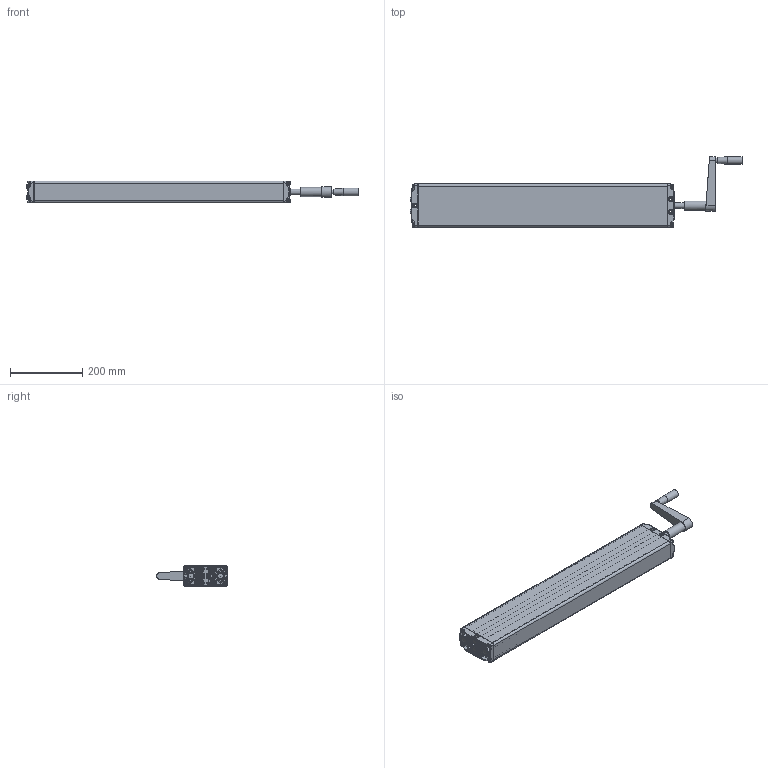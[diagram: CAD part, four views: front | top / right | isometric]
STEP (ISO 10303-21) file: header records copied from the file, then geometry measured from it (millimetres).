
FILE_DESCRIPTION(/* description */ ('Unknown'),/* implementation_level */ '2;1');
FILE_NAME(/* name */ '312.20025 Pumpe PB 3850 W mit Handkurbel',/* time_stamp */ '2016-10-21T13:46:26+02:00',/* author */ ('Unknown'),/* organization */ ('Unknown'),/* preprocessor_version */ 'ST-DEVELOPER v16.7',/* originating_system */ 'DEX',/* authorisation */ $);
FILE_SCHEMA (('AUTOMOTIVE_DESIGN {1 0 10303 214 3 1 1}'));
Products named in the file (22): 102.20025; 115.00035; 125.00045; 115.00008; 142.00021; 125.00021; 113.00005; 128.00001; 125.00052; 126.00013; 125.00053; 127.00014; Handgriff; 142.00013; 125.00145; 115.00140; 126.00006; 122.00040; 119.00045; 126.00005; 142.00057; 142.00110
Assembly tree (32 placements, depth 3):
  102.20025
    115.00035  x3
      125.00045
      115.00008
      142.00021
      125.00021
    113.00005
      128.00001
      125.00052
      126.00013
      125.00053
      127.00014
      Handgriff
    142.00013  x8
    125.00045
    125.00145
    115.00140
      126.00006
      122.00040
    119.00045
    126.00005
    142.00057
    142.00110  x2
Bounding box: 919.72 x 195.5 x 60.3 mm (x, y, z)
Volume: 1022107.7 mm3; surface area: 660038.1 mm2
Topology: 32 solids, 32 shells, 2571 faces, 6071 edges, 3497 vertices
Faces by surface type: plane 708, bspline 707, cylinder 578, cone 348, torus 171, sphere 59
Full cylindrical faces by diameter (mm): 3.5 x4, 4 x2, 4.1 x3, 4.2 x5, 4.917 x2, 5 x8, 6.917 x8, 8 x8, 9.8 x8, 10 x4, 10.4 x1, 12.8 x1, 13 x1, 14 x1, 14.4 x4, 15.8 x2, 16 x2, 17 x1, 17.3 x4, 17.9 x8, 18 x3, 19 x1, 20.6 x1, 21 x1, 21.2 x2, 22 x1, 25.5 x1
Entity records: 101371 total; most frequent: CARTESIAN_POINT 55714, ORIENTED_EDGE 8538, DIRECTION 6965, EDGE_CURVE 4269, AXIS2_PLACEMENT_3D 2803, VERTEX_POINT 2631, FACE_BOUND 2120, EDGE_LOOP 2117
